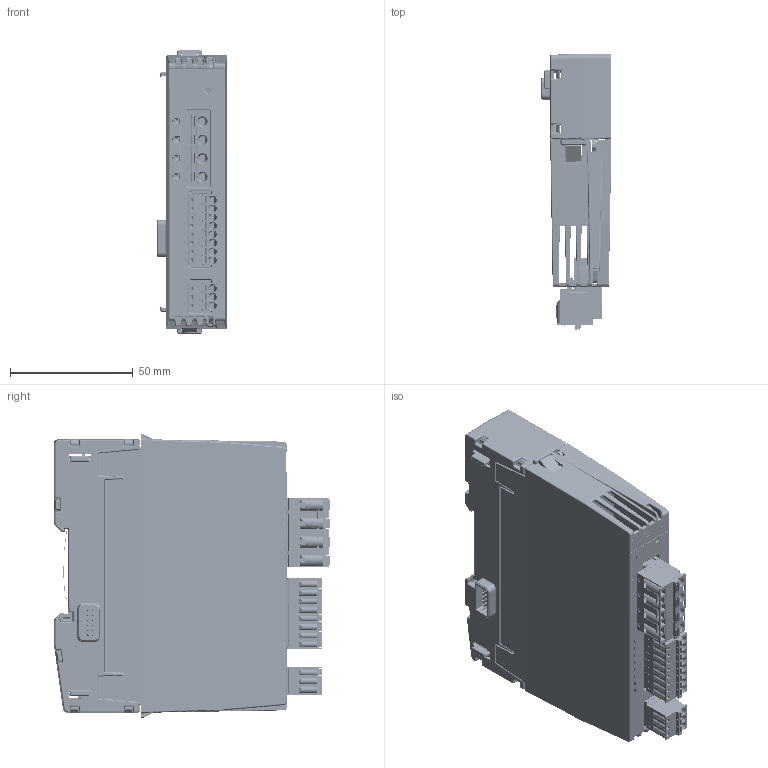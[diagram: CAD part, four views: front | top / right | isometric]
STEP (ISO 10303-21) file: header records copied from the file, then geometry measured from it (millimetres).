
FILE_DESCRIPTION(/* description */ (''),/* implementation_level */ '2;1');
FILE_NAME(/* name */ 'C:\Users\Public\Documents\Autodesk\Inventor 2023\PML3A_Simplified+BackBB21C.stp',/* time_stamp */ '2024-10-18T22:43:48+02:00',/* author */ ('shoma'),/* organization */ (''),/* preprocessor_version */ 'ST-DEVELOPER v19',/* originating_system */ 'Autodesk Inventor 2023',/* authorisation */ '');
FILE_SCHEMA (('AUTOMOTIVE_DESIGN { 1 0 10303 214 3 1 1 }'));
Products named in the file (1): PML3A_Simplified+BackBB21C
Bounding box: 28.9 x 112.6 x 115.5 mm (x, y, z)
Volume: 135859.4 mm3; surface area: 89793 mm2
Topology: 8 solids, 43 shells, 8426 faces, 22544 edges, 14163 vertices
Faces by surface type: plane 5453, cylinder 2072, bspline 561, sphere 163, cone 135, torus 42
Full cylindrical faces by diameter (mm): 0.296 x2, 0.3 x36, 0.434 x1, 0.457 x2, 0.7 x36, 0.8 x6, 0.85 x24, 0.9 x8, 1.17 x11, 1.25 x11, 1.3 x11, 1.4 x8, 1.5 x4, 1.6 x9, 2.35 x2, 2.5 x1, 2.8 x3, 3 x5, 3.1 x11, 3.25 x2, 4 x4
Entity records: 285535 total; most frequent: CARTESIAN_POINT 66691, ORIENTED_EDGE 44742, DIRECTION 42436, EDGE_CURVE 22371, LINE 16382, VECTOR 16382, VERTEX_POINT 14159, AXIS2_PLACEMENT_3D 13027
